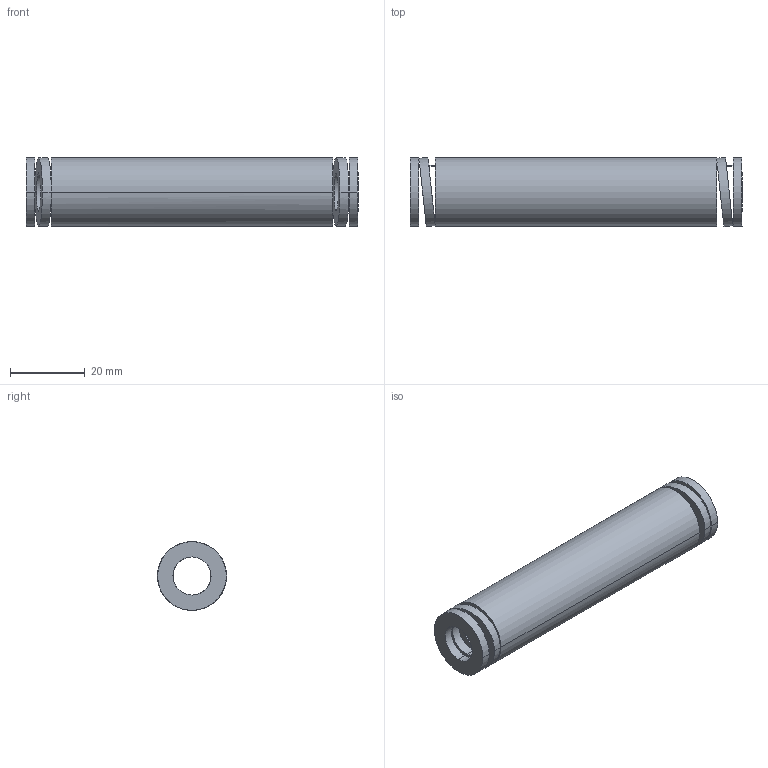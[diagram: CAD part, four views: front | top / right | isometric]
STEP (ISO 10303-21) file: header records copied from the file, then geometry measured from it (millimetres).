
FILE_DESCRIPTION(('CATIA V5 STEP Exchange'),'2;1');
FILE_NAME('C:\Users\Utente\Desktop\IO LAVORO\3D X SITO CF\X SITO\3D files 392B\392-B20-089.stp','2021-08-12T13:48:56+00:00',('none'),('none'),'CATIA Version 5 Release 20 GA (IN-10)','CATIA V5 STEP AP203','none');
FILE_SCHEMA(('CONFIG_CONTROL_DESIGN'));
Length unit declared in the file: millimetre
Products named in the file (1): 392-B20-089
Bounding box: 89 x 18.55 x 18.4 mm (x, y, z)
Volume: 15642.5 mm3; surface area: 9474.7 mm2
Topology: 1 solids, 1 shells, 38 faces, 92 edges, 64 vertices
Faces by surface type: cylinder 28, plane 10
Entity records: 1602 total; most frequent: CARTESIAN_POINT 721, ORIENTED_EDGE 184, DIRECTION 125, EDGE_CURVE 92, VERTEX_POINT 64, AXIS2_PLACEMENT_3D 60, EDGE_LOOP 56, B_SPLINE_CURVE_WITH_KNOTS 43
